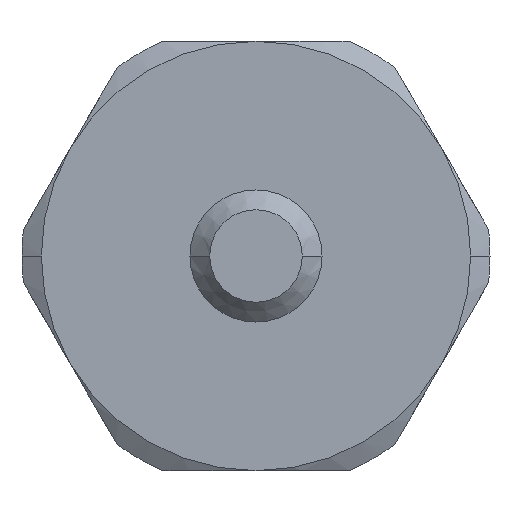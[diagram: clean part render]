
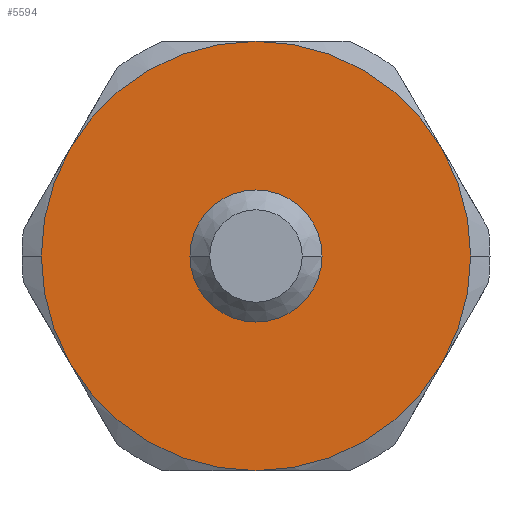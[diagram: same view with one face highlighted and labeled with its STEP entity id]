
A CAD part, left-side view. The second image highlights one B-rep face of the part: STEP entity #5594.
In plain terms, the highlighted planar face has unit normal (-1, 0, 0).
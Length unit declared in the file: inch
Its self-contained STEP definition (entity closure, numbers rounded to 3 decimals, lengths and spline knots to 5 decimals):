
#1000=CARTESIAN_POINT('',(-0.52656,-0.5,0.606));
#1001=VERTEX_POINT('',#1000);
#1008=CARTESIAN_POINT('',(-0.52656,-0.43301,0.356));
#1009=VERTEX_POINT('',#1008);
#1010=CARTESIAN_POINT('',(-0.52656,0.0,0.606));
#1011=DIRECTION('',(-1.0,0.0,0.0));
#1012=DIRECTION('',(0.0,1.0,0.0));
#1013=AXIS2_PLACEMENT_3D('',#1010,#1011,#1012);
#1014=CIRCLE('',#1013,0.5);
#1015=EDGE_CURVE('',#1009,#1001,#1014,.T.);
#1039=CARTESIAN_POINT('',(-0.52656,0.5,0.606));
#1040=VERTEX_POINT('',#1039);
#1056=CARTESIAN_POINT('',(-0.52656,0.43301,0.356));
#1057=VERTEX_POINT('',#1056);
#1071=CARTESIAN_POINT('',(-0.52656,0.0,0.606));
#1072=DIRECTION('',(-1.0,0.0,0.0));
#1073=DIRECTION('',(0.0,1.0,0.0));
#1074=AXIS2_PLACEMENT_3D('',#1071,#1072,#1073);
#1075=CIRCLE('',#1074,0.5);
#1076=EDGE_CURVE('',#1040,#1057,#1075,.T.);
#1672=CARTESIAN_POINT('',(-0.52656,0.15375,0.606));
#1673=VERTEX_POINT('',#1672);
#1682=CARTESIAN_POINT('',(-0.52656,-0.15375,0.606));
#1683=VERTEX_POINT('',#1682);
#1684=CARTESIAN_POINT('',(-0.52656,0.0,0.606));
#1685=DIRECTION('',(1.0,0.0,0.0));
#1686=DIRECTION('',(0.0,1.0,0.0));
#1687=AXIS2_PLACEMENT_3D('',#1684,#1685,#1686);
#1688=CIRCLE('',#1687,0.15375);
#1689=EDGE_CURVE('',#1683,#1673,#1688,.T.);
#5167=CARTESIAN_POINT('',(-0.52656,0.0,0.606));
#5168=DIRECTION('',(1.0,0.0,0.0));
#5169=DIRECTION('',(0.0,1.0,0.0));
#5170=AXIS2_PLACEMENT_3D('',#5167,#5168,#5169);
#5171=CIRCLE('',#5170,0.15375);
#5172=EDGE_CURVE('',#1673,#1683,#5171,.T.);
#5531=CARTESIAN_POINT('',(-0.52656,0.,0.606));
#5532=DIRECTION('',(1.0,0.0,0.0));
#5533=DIRECTION('',(0.0,0.0,-1.0));
#5534=AXIS2_PLACEMENT_3D('',#5531,#5532,#5533);
#5535=PLANE('',#5534);
#5536=ORIENTED_EDGE('',*,*,#1015,.T.);
#5537=CARTESIAN_POINT('',(-0.52656,-0.43301,0.856));
#5538=VERTEX_POINT('',#5537);
#5539=CARTESIAN_POINT('',(-0.52656,0.0,0.606));
#5540=DIRECTION('',(-1.0,0.0,0.0));
#5541=DIRECTION('',(0.0,1.0,0.0));
#5542=AXIS2_PLACEMENT_3D('',#5539,#5540,#5541);
#5543=CIRCLE('',#5542,0.5);
#5544=EDGE_CURVE('',#1001,#5538,#5543,.T.);
#5545=ORIENTED_EDGE('',*,*,#5544,.T.);
#5546=CARTESIAN_POINT('',(-0.52656,0.,1.106));
#5547=VERTEX_POINT('',#5546);
#5548=CARTESIAN_POINT('',(-0.52656,0.0,0.606));
#5549=DIRECTION('',(-1.0,0.0,0.0));
#5550=DIRECTION('',(0.0,1.0,0.0));
#5551=AXIS2_PLACEMENT_3D('',#5548,#5549,#5550);
#5552=CIRCLE('',#5551,0.5);
#5553=EDGE_CURVE('',#5538,#5547,#5552,.T.);
#5554=ORIENTED_EDGE('',*,*,#5553,.T.);
#5555=CARTESIAN_POINT('',(-0.52656,0.43301,0.856));
#5556=VERTEX_POINT('',#5555);
#5557=CARTESIAN_POINT('',(-0.52656,0.0,0.606));
#5558=DIRECTION('',(-1.0,0.0,0.0));
#5559=DIRECTION('',(0.0,1.0,0.0));
#5560=AXIS2_PLACEMENT_3D('',#5557,#5558,#5559);
#5561=CIRCLE('',#5560,0.5);
#5562=EDGE_CURVE('',#5547,#5556,#5561,.T.);
#5563=ORIENTED_EDGE('',*,*,#5562,.T.);
#5564=CARTESIAN_POINT('',(-0.52656,0.0,0.606));
#5565=DIRECTION('',(-1.0,0.0,0.0));
#5566=DIRECTION('',(0.0,1.0,0.0));
#5567=AXIS2_PLACEMENT_3D('',#5564,#5565,#5566);
#5568=CIRCLE('',#5567,0.5);
#5569=EDGE_CURVE('',#5556,#1040,#5568,.T.);
#5570=ORIENTED_EDGE('',*,*,#5569,.T.);
#5571=ORIENTED_EDGE('',*,*,#1076,.T.);
#5572=CARTESIAN_POINT('',(-0.52656,0.,0.106));
#5573=VERTEX_POINT('',#5572);
#5574=CARTESIAN_POINT('',(-0.52656,0.0,0.606));
#5575=DIRECTION('',(-1.0,0.0,0.0));
#5576=DIRECTION('',(0.0,1.0,0.0));
#5577=AXIS2_PLACEMENT_3D('',#5574,#5575,#5576);
#5578=CIRCLE('',#5577,0.5);
#5579=EDGE_CURVE('',#1057,#5573,#5578,.T.);
#5580=ORIENTED_EDGE('',*,*,#5579,.T.);
#5581=CARTESIAN_POINT('',(-0.52656,0.0,0.606));
#5582=DIRECTION('',(-1.0,0.0,0.0));
#5583=DIRECTION('',(0.0,1.0,0.0));
#5584=AXIS2_PLACEMENT_3D('',#5581,#5582,#5583);
#5585=CIRCLE('',#5584,0.5);
#5586=EDGE_CURVE('',#5573,#1009,#5585,.T.);
#5587=ORIENTED_EDGE('',*,*,#5586,.T.);
#5588=EDGE_LOOP('',(#5536,#5545,#5554,#5563,#5570,#5571,#5580,#5587));
#5589=FACE_OUTER_BOUND('',#5588,.T.);
#5590=ORIENTED_EDGE('',*,*,#1689,.T.);
#5591=ORIENTED_EDGE('',*,*,#5172,.T.);
#5592=EDGE_LOOP('',(#5590,#5591));
#5593=FACE_BOUND('',#5592,.T.);
#5594=ADVANCED_FACE('',(#5589,#5593),#5535,.F.);
